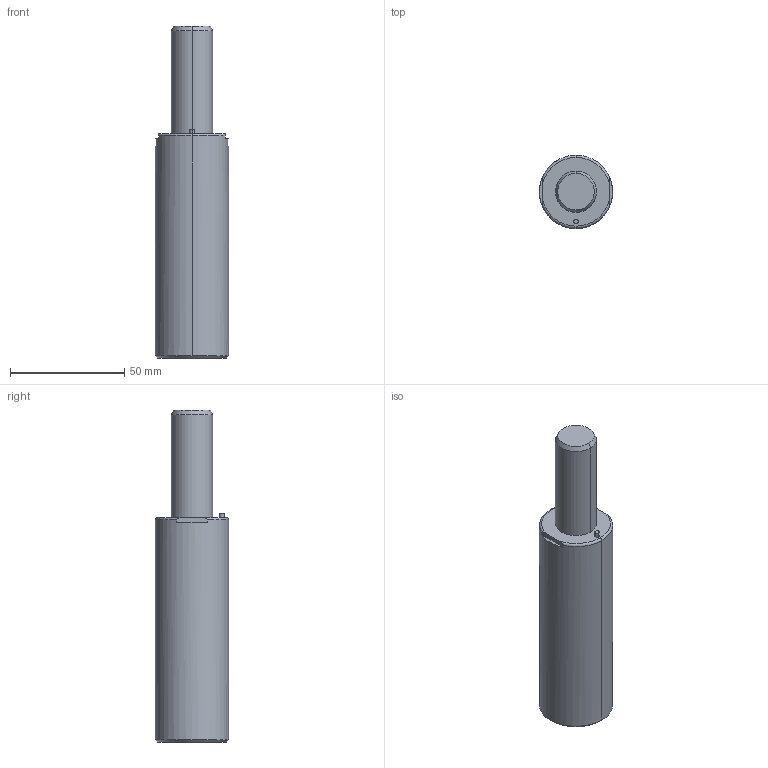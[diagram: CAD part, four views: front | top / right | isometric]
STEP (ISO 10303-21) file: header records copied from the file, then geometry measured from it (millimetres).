
FILE_DESCRIPTION(/* description */ (''),/* implementation_level */ '2;1');
FILE_NAME(/* name */ '3d_gsx32-45_03974_r00.stp',/* time_stamp */ '2011-01-10T14:15:14+09:00',/* author */ ('MISUMI'),/* organization */ (''),/* preprocessor_version */ 'ST-DEVELOPER v11',/* originating_system */ 'UGS - NX 5.0',/* authorisation */ '');
FILE_SCHEMA (('CONFIG_CONTROL_DESIGN'));
Length unit declared in the file: millimetre
Products named in the file (1): 3d_gsx32-45_03974_r00
Bounding box: 32 x 32 x 145 mm (x, y, z)
Volume: 89336.1 mm3; surface area: 14872.2 mm2
Topology: 1 solids, 1 shells, 45 faces, 98 edges, 60 vertices
Faces by surface type: cylinder 20, plane 13, cone 8, torus 4
Entity records: 1324 total; most frequent: DIRECTION 236, CARTESIAN_POINT 228, ORIENTED_EDGE 188, AXIS2_PLACEMENT_3D 100, EDGE_CURVE 94, VERTEX_POINT 60, EDGE_LOOP 54, CIRCLE 54
